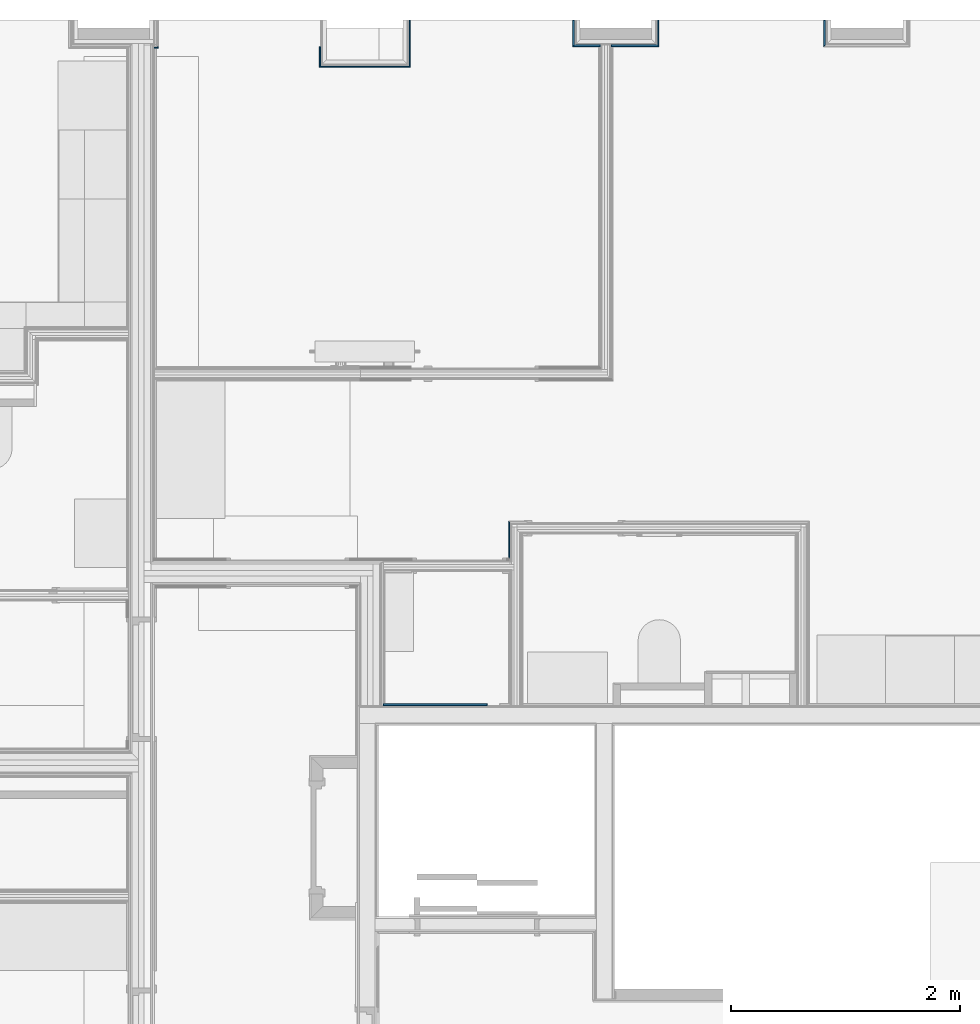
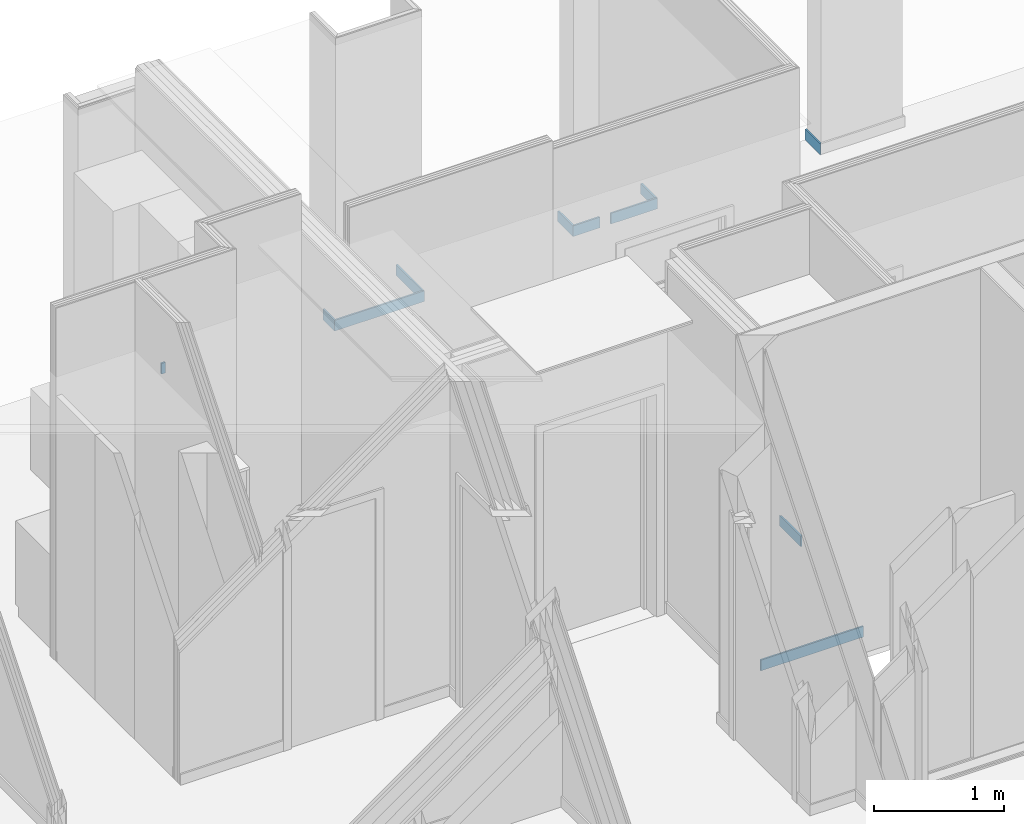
# One storey, part 32 of 64: 11 building element parts, 10 elements without a shape of their own.
"""IFC2X3 building model written with IfcOpenShell, lengths in metres."""

from ifc_helpers import new_model, entity, si_unit, converted_unit, derived_unit, money_unit, direction, frame, frame_2d, origin_with_axes, place, context, subcontext, project, spatial, polyline, rectangle, outline, extrude, material, type_object, element, aggregate, save


model = new_model("IFC2X3")

# Units and contexts
model_context = context("Model", 3, precision=1e-05, world=origin_with_axes(), true_north=direction((0.0, 1.0)))
body_context = subcontext(model_context, "Body", "Model", "MODEL_VIEW", scale=1.0)
ifc_project = project(units=[si_unit("LENGTHUNIT", "METRE"), si_unit("AREAUNIT", "SQUARE_METRE"), si_unit("VOLUMEUNIT", "CUBIC_METRE"), si_unit("ABSORBEDDOSEUNIT", "GRAY"), si_unit("AMOUNTOFSUBSTANCEUNIT", "MOLE"), si_unit("DOSEEQUIVALENTUNIT", "SIEVERT"), si_unit("ELECTRICCAPACITANCEUNIT", "FARAD"), si_unit("ELECTRICCHARGEUNIT", "COULOMB"), si_unit("ELECTRICCONDUCTANCEUNIT", "SIEMENS"), si_unit("ELECTRICCURRENTUNIT", "AMPERE"), si_unit("ELECTRICRESISTANCEUNIT", "OHM"), si_unit("ELECTRICVOLTAGEUNIT", "VOLT"), si_unit("ENERGYUNIT", "JOULE"), si_unit("FORCEUNIT", "NEWTON"), si_unit("FREQUENCYUNIT", "HERTZ"), si_unit("ILLUMINANCEUNIT", "LUX"), si_unit("INDUCTANCEUNIT", "HENRY"), si_unit("LUMINOUSFLUXUNIT", "LUMEN"), si_unit("LUMINOUSINTENSITYUNIT", "CANDELA"), si_unit("MAGNETICFLUXDENSITYUNIT", "TESLA"), si_unit("MAGNETICFLUXUNIT", "WEBER"), si_unit("MASSUNIT", "GRAM"), converted_unit("PLANEANGLEUNIT", "degree", entity("IfcReal", 0.0174532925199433), si_unit("PLANEANGLEUNIT", "RADIAN"), dimensions=[0, 0, 0, 0, 0, 0, 0]), si_unit("POWERUNIT", "WATT"), si_unit("PRESSUREUNIT", "PASCAL"), si_unit("RADIOACTIVITYUNIT", "BECQUEREL"), si_unit("SOLIDANGLEUNIT", "STERADIAN"), si_unit("THERMODYNAMICTEMPERATUREUNIT", "KELVIN"), si_unit("TIMEUNIT", "SECOND"), derived_unit("ACCELERATIONUNIT", [(si_unit("LENGTHUNIT", "METRE"), 1), (si_unit("TIMEUNIT", "SECOND"), -2)]), derived_unit("ANGULARVELOCITYUNIT", [(converted_unit("PLANEANGLEUNIT", "degree", entity("IfcReal", 0.0174532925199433), si_unit("PLANEANGLEUNIT", "RADIAN"), dimensions=[0, 0, 0, 0, 0, 0, 0]), 1), (si_unit("TIMEUNIT", "SECOND"), -1)]), derived_unit("CURVATUREUNIT", [(converted_unit("PLANEANGLEUNIT", "degree", entity("IfcReal", 0.0174532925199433), si_unit("PLANEANGLEUNIT", "RADIAN"), dimensions=[0, 0, 0, 0, 0, 0, 0]), 1), (si_unit("LENGTHUNIT", "METRE"), -1)]), derived_unit("DYNAMICVISCOSITYUNIT", [(si_unit("PRESSUREUNIT", "PASCAL"), 1), (si_unit("TIMEUNIT", "SECOND"), 1)]), derived_unit("HEATFLUXDENSITYUNIT", [(si_unit("POWERUNIT", "WATT"), 1), (si_unit("LENGTHUNIT", "METRE"), -2)]), derived_unit("HEATINGVALUEUNIT", [(si_unit("ENERGYUNIT", "JOULE"), 1), (si_unit("MASSUNIT", "GRAM"), -1)]), derived_unit("INTEGERCOUNTRATEUNIT", [(si_unit("TIMEUNIT", "SECOND"), -1)]), derived_unit("IONCONCENTRATIONUNIT", [(si_unit("MASSUNIT", "GRAM"), 1), (si_unit("VOLUMEUNIT", "CUBIC_METRE"), -1)]), derived_unit("ISOTHERMALMOISTURECAPACITYUNIT", [(si_unit("VOLUMEUNIT", "CUBIC_METRE"), 1), (si_unit("MASSUNIT", "GRAM"), -1)]), derived_unit("KINEMATICVISCOSITYUNIT", [(si_unit("AREAUNIT", "SQUARE_METRE"), 1), (si_unit("TIMEUNIT", "SECOND"), -1)]), derived_unit("LINEARFORCEUNIT", [(si_unit("FORCEUNIT", "NEWTON"), 1), (si_unit("LENGTHUNIT", "METRE"), -1)]), derived_unit("LINEARMOMENTUNIT", [(si_unit("FORCEUNIT", "NEWTON"), 1), (si_unit("LENGTHUNIT", "METRE"), -1)]), derived_unit("LINEARSTIFFNESSUNIT", [(si_unit("FORCEUNIT", "NEWTON"), 1), (si_unit("LENGTHUNIT", "METRE"), -1)]), derived_unit("LINEARVELOCITYUNIT", [(si_unit("LENGTHUNIT", "METRE"), 1), (si_unit("TIMEUNIT", "SECOND"), -1)]), derived_unit("LUMINOUSINTENSITYDISTRIBUTIONUNIT", [(si_unit("LUMINOUSINTENSITYUNIT", "CANDELA"), 1), (si_unit("LUMINOUSFLUXUNIT", "LUMEN"), -1)]), derived_unit("MASSDENSITYUNIT", [(si_unit("MASSUNIT", "GRAM"), 1), (si_unit("VOLUMEUNIT", "CUBIC_METRE"), -1)]), derived_unit("MASSFLOWRATEUNIT", [(si_unit("MASSUNIT", "GRAM"), 1), (si_unit("TIMEUNIT", "SECOND"), -1)]), derived_unit("MASSPERLENGTHUNIT", [(si_unit("MASSUNIT", "GRAM"), 1), (si_unit("LENGTHUNIT", "METRE"), -1)]), derived_unit("MODULUSOFELASTICITYUNIT", [(si_unit("FORCEUNIT", "NEWTON"), 1), (si_unit("AREAUNIT", "SQUARE_METRE"), -1)]), derived_unit("MODULUSOFLINEARSUBGRADEREACTIONUNIT", [(si_unit("FORCEUNIT", "NEWTON"), 1), (si_unit("LENGTHUNIT", "METRE"), -2)]), derived_unit("MODULUSOFROTATIONALSUBGRADEREACTIONUNIT", [(si_unit("FORCEUNIT", "NEWTON"), 1), (si_unit("LENGTHUNIT", "METRE"), 1)]), derived_unit("MODULUSOFSUBGRADEREACTIONUNIT", [(si_unit("FORCEUNIT", "NEWTON"), 1), (si_unit("VOLUMEUNIT", "CUBIC_METRE"), -1)]), derived_unit("MOISTUREDIFFUSIVITYUNIT", [(si_unit("VOLUMEUNIT", "CUBIC_METRE"), 1), (si_unit("TIMEUNIT", "SECOND"), -1)]), derived_unit("MOLECULARWEIGHTUNIT", [(si_unit("MASSUNIT", "GRAM"), 1), (si_unit("AMOUNTOFSUBSTANCEUNIT", "MOLE"), -1)]), derived_unit("PLANARFORCEUNIT", [(si_unit("FORCEUNIT", "NEWTON"), 1), (si_unit("LENGTHUNIT", "METRE"), -2)]), derived_unit("ROTATIONALFREQUENCYUNIT", [(si_unit("TIMEUNIT", "SECOND"), -1)]), derived_unit("ROTATIONALMASSUNIT", [(si_unit("MASSUNIT", "GRAM"), 1), (si_unit("LENGTHUNIT", "METRE"), 2)]), derived_unit("ROTATIONALSTIFFNESSUNIT", [(si_unit("FORCEUNIT", "NEWTON"), 1), (si_unit("LENGTHUNIT", "METRE"), 1), (converted_unit("PLANEANGLEUNIT", "degree", entity("IfcReal", 0.0174532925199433), si_unit("PLANEANGLEUNIT", "RADIAN"), dimensions=[0, 0, 0, 0, 0, 0, 0]), -1)]), derived_unit("SECTIONAREAINTEGRALUNIT", [(si_unit("LENGTHUNIT", "METRE"), 5)]), derived_unit("SECTIONMODULUSUNIT", [(si_unit("LENGTHUNIT", "METRE"), 3)]), derived_unit("SHEARMODULUSUNIT", [(si_unit("FORCEUNIT", "NEWTON"), 1), (si_unit("AREAUNIT", "SQUARE_METRE"), -1)]), derived_unit("SOUNDPOWERUNIT", [(si_unit("ENERGYUNIT", "JOULE"), 1), (si_unit("TIMEUNIT", "SECOND"), -1)]), derived_unit("SPECIFICHEATCAPACITYUNIT", [(si_unit("FORCEUNIT", "NEWTON"), 1), (si_unit("MASSUNIT", "GRAM"), -1), (si_unit("THERMODYNAMICTEMPERATUREUNIT", "KELVIN"), -1)]), derived_unit("TEMPERATUREGRADIENTUNIT", [(si_unit("THERMODYNAMICTEMPERATUREUNIT", "KELVIN"), 1), (si_unit("LENGTHUNIT", "METRE"), -1)]), derived_unit("THERMALADMITTANCEUNIT", [(si_unit("POWERUNIT", "WATT"), 1), (si_unit("AREAUNIT", "SQUARE_METRE"), -1), (si_unit("THERMODYNAMICTEMPERATUREUNIT", "KELVIN"), -1)]), derived_unit("THERMALCONDUCTANCEUNIT", [(si_unit("POWERUNIT", "WATT"), 1), (si_unit("LENGTHUNIT", "METRE"), -1), (si_unit("THERMODYNAMICTEMPERATUREUNIT", "KELVIN"), -1)]), derived_unit("THERMALEXPANSIONCOEFFICIENTUNIT", [(si_unit("THERMODYNAMICTEMPERATUREUNIT", "KELVIN"), -1)]), derived_unit("THERMALRESISTANCEUNIT", [(si_unit("AREAUNIT", "SQUARE_METRE"), 1), (si_unit("POWERUNIT", "WATT"), -1)]), derived_unit("THERMALTRANSMITTANCEUNIT", [(si_unit("POWERUNIT", "WATT"), 1), (si_unit("AREAUNIT", "SQUARE_METRE"), -1), (si_unit("THERMODYNAMICTEMPERATUREUNIT", "KELVIN"), -1)]), derived_unit("TORQUEUNIT", [(si_unit("FORCEUNIT", "NEWTON"), 1), (si_unit("LENGTHUNIT", "METRE"), 1)]), derived_unit("VAPORPERMEABILITYUNIT", [(si_unit("MASSUNIT", "GRAM"), 1), (si_unit("TIMEUNIT", "SECOND"), -1)]), derived_unit("VOLUMETRICFLOWRATEUNIT", [(si_unit("VOLUMEUNIT", "CUBIC_METRE"), 1), (si_unit("TIMEUNIT", "SECOND"), -1)]), derived_unit("WARPINGCONSTANTUNIT", [(si_unit("LENGTHUNIT", "METRE"), 6)]), derived_unit("WARPINGMOMENTUNIT", [(si_unit("FORCEUNIT", "NEWTON"), 1), (si_unit("LENGTHUNIT", "METRE"), 2)]), money_unit("GBP")], contexts=[model_context])

# Site, building, storey
site_placement = place(None, origin_with_axes())
site = spatial("IfcSite", under=ifc_project, at=site_placement, Name="Site", CompositionType="ELEMENT")
building_placement = place(site_placement, origin_with_axes())
building = spatial("IfcBuilding", under=site, at=building_placement, Name="Building01", CompositionType="ELEMENT")
storey_placement = place(building_placement, frame((0.0, 0.0, 8.64), z_axis=(0.0, 0.0, 1.0), x_axis=(1.0, 0.0, 0.0)))
storey = spatial("IfcBuildingStorey", under=building, at=storey_placement, Name="2F", CompositionType="ELEMENT", Elevation=8.64)

# Wall, building element part
wall_type_1 = type_object("IfcWallType", Name="SHE_A-Walls_Type06d_ExternalWallInsulation_48mm", PredefinedType="NOTDEFINED")
wall_1_placement = place(storey_placement, frame((9.46, 14.8, 0.0), z_axis=(0.0, 0.0, 1.0), x_axis=(0.0, -1.0, 0.0)))
wall_1 = element("IfcWall", 1, at=wall_1_placement, inside=storey, type_object=wall_type_1, Name="6D", ObjectType="SHE_A-Walls_Type06d_ExternalWallInsulation_48mm")
ifc_material = material(Name="A_BSUK_Walls_Timber")
building_element_part_1_placement = place(wall_1_placement, origin_with_axes())
building_element_part_1 = element("IfcBuildingElementPart", 2, at=building_element_part_1_placement, material=ifc_material, Name="3", context=body_context, shape_type="SweptSolid", body=[
    extrude(outline(polyline([(0.413, 0.063), (0.0, 0.063), (0.0, 0.048), (0.398, 0.048), (0.413, 0.063)])), frame((0.0, 0.0, 0.015), z_axis=(0.0, 0.0, 1.0), x_axis=(1.0, 0.0, 0.0)), (0.0, 0.0, 1.0), 0.1),
])
aggregate(wall_1, [building_element_part_1])

wall_2_placement = place(storey_placement, frame((9.46, 14.45, 0.0), z_axis=(0.0, 0.0, 1.0), x_axis=(-1.0, 0.0, 0.0)))
wall_2 = element("IfcWall", 3, at=wall_2_placement, inside=storey, type_object=wall_type_1, Name="6D", ObjectType="SHE_A-Walls_Type06d_ExternalWallInsulation_48mm")
building_element_part_2_placement = place(wall_2_placement, origin_with_axes())
building_element_part_2 = element("IfcBuildingElementPart", 4, at=building_element_part_2_placement, material=ifc_material, Name="3", context=body_context, shape_type="SweptSolid", body=[
    extrude(outline(polyline([(0.733, 0.063), (-0.063, 0.063), (-0.048, 0.048), (0.718, 0.048), (0.733, 0.063)])), frame((0.0, 0.0, 0.015), z_axis=(0.0, 0.0, 1.0), x_axis=(1.0, 0.0, 0.0)), (0.0, 0.0, 1.0), 0.1),
])
aggregate(wall_2, [building_element_part_2])

wall_3_placement = place(storey_placement, frame((8.79, 14.45, 0.0), z_axis=(0.0, 0.0, 1.0), x_axis=(0.0, 1.0, 0.0)))
wall_3 = element("IfcWall", 5, at=wall_3_placement, inside=storey, type_object=wall_type_1, Name="6D", ObjectType="SHE_A-Walls_Type06d_ExternalWallInsulation_48mm")
building_element_part_3_placement = place(wall_3_placement, origin_with_axes())
building_element_part_3 = element("IfcBuildingElementPart", 6, at=building_element_part_3_placement, material=ifc_material, Name="3", context=body_context, shape_type="SweptSolid", body=[
    extrude(outline(polyline([(-0.063, 0.063), (-0.048, 0.048), (0.117, 0.048), (0.117, 0.063), (-0.063, 0.063)])), frame((0.0, 0.0, 0.015), z_axis=(0.0, 0.0, 1.0), x_axis=(1.0, 0.0, 0.0)), (0.0, 0.0, 1.0), 0.1),
])
aggregate(wall_3, [building_element_part_3])

wall_4_placement = place(storey_placement, frame((11.627, 14.8, 0.0), z_axis=(0.0, 0.0, 1.0), x_axis=(0.0, -1.0, 0.0)))
wall_4 = element("IfcWall", 7, at=wall_4_placement, inside=storey, type_object=wall_type_1, Name="6D", ObjectType="SHE_A-Walls_Type06d_ExternalWallInsulation_48mm")
building_element_part_4_placement = place(wall_4_placement, origin_with_axes())
building_element_part_4 = element("IfcBuildingElementPart", 8, at=building_element_part_4_placement, material=ifc_material, Name="3", context=body_context, shape_type="SweptSolid", body=[
    extrude(outline(polyline([(0.233, 0.063), (0.0, 0.063), (0.0, 0.048), (0.218, 0.048), (0.233, 0.063)])), frame((0.0, 0.0, 0.015), z_axis=(0.0, 0.0, 1.0), x_axis=(1.0, 0.0, 0.0)), (0.0, 0.0, 1.0), 0.1),
])
aggregate(wall_4, [building_element_part_4])

wall_5_placement = place(storey_placement, frame((11.003, 14.63, 0.0), z_axis=(0.0, 0.0, 1.0), x_axis=(0.0, 1.0, 0.0)))
wall_5 = element("IfcWall", 9, at=wall_5_placement, inside=storey, type_object=wall_type_1, Name="6D", ObjectType="SHE_A-Walls_Type06d_ExternalWallInsulation_48mm")
building_element_part_5_placement = place(wall_5_placement, origin_with_axes())
building_element_part_5 = element("IfcBuildingElementPart", 10, at=building_element_part_5_placement, material=ifc_material, Name="3", context=body_context, shape_type="SweptSolid", body=[
    extrude(outline(polyline([(-0.063, 0.063), (-0.048, 0.048), (0.17, 0.048), (0.17, 0.063), (-0.063, 0.063)])), frame((0.0, 0.0, 0.015), z_axis=(0.0, 0.0, 1.0), x_axis=(1.0, 0.0, 0.0)), (0.0, 0.0, 1.0), 0.1),
])
aggregate(wall_5, [building_element_part_5])

wall_6_placement = place(storey_placement, frame((13.193, 14.63, 0.0), z_axis=(0.0, 0.0, 1.0), x_axis=(0.0, 1.0, 0.0)))
wall_6 = element("IfcWall", 11, at=wall_6_placement, inside=storey, type_object=wall_type_1, Name="6D", ObjectType="SHE_A-Walls_Type06d_ExternalWallInsulation_48mm")
building_element_part_6_placement = place(wall_6_placement, origin_with_axes())
building_element_part_6 = element("IfcBuildingElementPart", 12, at=building_element_part_6_placement, material=ifc_material, Name="3", context=body_context, shape_type="SweptSolid", body=[
    extrude(outline(polyline([(-0.063, 0.063), (-0.048, 0.048), (0.17, 0.048), (0.17, 0.063), (-0.063, 0.063)])), frame((0.0, 0.0, 0.015), z_axis=(0.0, 0.0, 1.0), x_axis=(1.0, 0.0, 0.0)), (0.0, 0.0, 1.0), 0.1),
])
aggregate(wall_6, [building_element_part_6])

# Wall, building element parts
wall_7_placement = place(storey_placement, frame((11.627, 14.63, 0.0), z_axis=(0.0, 0.0, 1.0), x_axis=(-1.0, 0.0, 0.0)))
wall_7 = element("IfcWall", 13, at=wall_7_placement, inside=storey, type_object=wall_type_1, Name="6D", ObjectType="SHE_A-Walls_Type06d_ExternalWallInsulation_48mm")
placement = place(wall_7_placement, origin_with_axes())
building_element_part_7 = element("IfcBuildingElementPart", 14, at=placement, material=ifc_material, Name="3", context=body_context, shape_type="SweptSolid", body=[
    extrude(outline(polyline([(0.352, 0.063), (-0.063, 0.063), (-0.048, 0.048), (0.352, 0.048), (0.352, 0.063)])), frame((0.0, 0.0, 0.015), z_axis=(0.0, 0.0, 1.0), x_axis=(1.0, 0.0, 0.0)), (0.0, 0.0, 1.0), 0.1),
])
building_element_part_8 = element("IfcBuildingElementPart", 15, at=placement, material=ifc_material, Name="4", context=body_context, shape_type="SweptSolid", body=[
    extrude(outline(polyline([(0.687, 0.063), (0.447, 0.063), (0.447, 0.048), (0.672, 0.048), (0.687, 0.063)])), frame((0.0, 0.0, 0.015), z_axis=(0.0, 0.0, 1.0), x_axis=(1.0, 0.0, 0.0)), (0.0, 0.0, 1.0), 0.1),
])
aggregate(wall_7, [building_element_part_7, building_element_part_8])

# Wall, building element part
wall_type_2 = type_object("IfcWallType", Name="SHE_A-Walls_Type03a_BlockworkWall_170mm", PredefinedType="NOTDEFINED")
wall_8_placement = place(storey_placement, frame((17.985, 8.805, 0.0), z_axis=(0.0, 0.0, 1.0), x_axis=(-1.0, 0.0, 0.0)))
wall_8 = element("IfcWall", 16, at=wall_8_placement, inside=storey, type_object=wall_type_2, Name="4B", ObjectType="SHE_A-Walls_Type03a_BlockworkWall_170mm")
building_element_part_9_placement = place(wall_8_placement, origin_with_axes())
building_element_part_9 = element("IfcBuildingElementPart", 17, at=building_element_part_9_placement, material=ifc_material, Name="4", context=body_context, shape_type="SweptSolid", body=[
    extrude(rectangle(XDim=0.908871, YDim=0.015, at=frame_2d((8.245565, -0.0225), x_axis=(-1.0, 0.0))), frame((0.0, 0.0, 0.015), z_axis=(0.0, 0.0, 1.0), x_axis=(1.0, 0.0, 0.0)), (0.0, 0.0, 1.0), 0.1),
])
aggregate(wall_8, [building_element_part_9])

wall_type_3 = type_object("IfcWallType", Name="SHE_A-Walls_Type05a_Partition_95mm_tall", PredefinedType="NOTDEFINED")
wall_9_placement = place(storey_placement, frame((10.453871, 8.82, 0.0), z_axis=(0.0, 0.0, 1.0), x_axis=(0.0, 1.0, 0.0)))
wall_9 = element("IfcWall", 18, at=wall_9_placement, inside=storey, type_object=wall_type_3, Name="5A", ObjectType="SHE_A-Walls_Type05a_Partition_95mm_tall")
building_element_part_10_placement = place(wall_9_placement, origin_with_axes())
building_element_part_10 = element("IfcBuildingElementPart", 19, at=building_element_part_10_placement, material=ifc_material, Name="9", context=body_context, shape_type="SweptSolid", body=[
    extrude(outline(polyline([(1.61, 0.075), (1.286537, 0.075), (1.286537, 0.06), (1.595, 0.06), (1.61, 0.075)])), frame((0.0, 0.0, 0.015), z_axis=(0.0, 0.0, 1.0), x_axis=(1.0, 0.0, 0.0)), (0.0, 0.0, 1.0), 0.1),
])
aggregate(wall_9, [building_element_part_10])

wall_type_4 = type_object("IfcWallType", Name="SHE_A-Walls_Type06f_ExternalWallInsulation_48+15mm", PredefinedType="NOTDEFINED")
wall_10_placement = place(storey_placement, frame((7.283, 14.63, 0.0), z_axis=(0.0, 0.0, 1.0), x_axis=(-1.0, 0.0, 0.0)))
wall_10 = element("IfcWall", 20, at=wall_10_placement, inside=storey, type_object=wall_type_4, Name="6F", ObjectType="SHE_A-Walls_Type06f_ExternalWallInsulation_48+15mm")
building_element_part_11_placement = place(wall_10_placement, origin_with_axes())
building_element_part_11 = element("IfcBuildingElementPart", 21, at=building_element_part_11_placement, material=ifc_material, Name="6", context=body_context, shape_type="SweptSolid", body=[
    extrude(rectangle(XDim=0.035331, YDim=0.015, at=frame_2d((-0.024334, 0.0705), x_axis=(-1.0, 0.0))), frame((0.0, 0.0, 0.015), z_axis=(0.0, 0.0, 1.0), x_axis=(1.0, 0.0, 0.0)), (0.0, 0.0, 1.0), 0.1),
])
aggregate(wall_10, [building_element_part_11])

save(model, "model.ifc")
